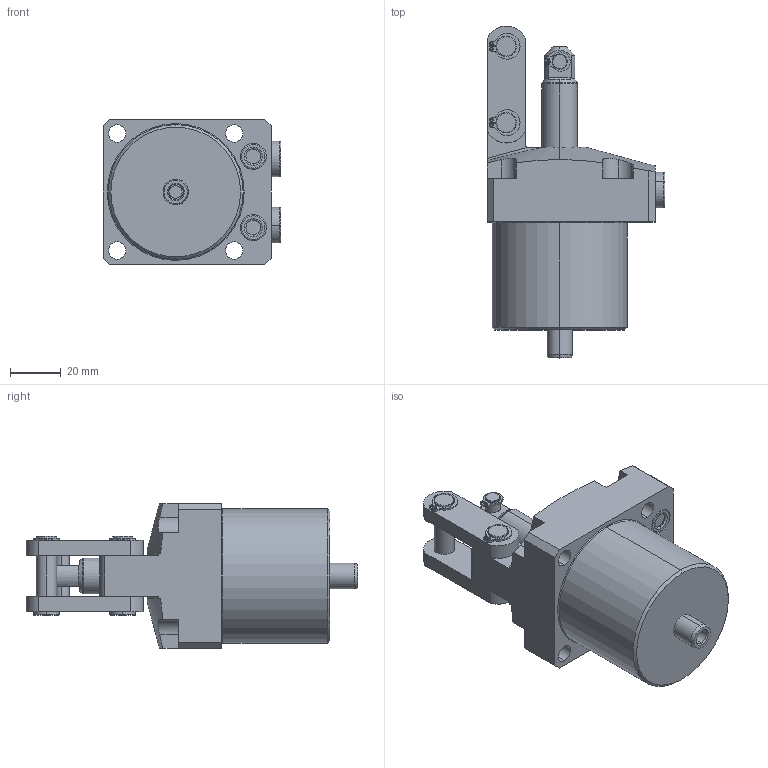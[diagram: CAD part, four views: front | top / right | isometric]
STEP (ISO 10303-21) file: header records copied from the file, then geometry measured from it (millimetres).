
FILE_DESCRIPTION(/* description */ (''),/* implementation_level */ '2;1');
FILE_NAME(/* name */ 'TPC06-FD.stp',/* time_stamp */ '2025-01-05T10:16:04+08:00',/* author */ (''),/* organization */ (''),/* preprocessor_version */ 'ST-DEVELOPER v16.7',/* originating_system */ 'SIEMENS PLM Software NX 12.0',/* authorisation */ '');
FILE_SCHEMA (('AUTOMOTIVE_DESIGN { 1 0 10303 214 3 1 1 1 }'));
Length unit declared in the file: millimetre
Products named in the file (5): TPC06-FD-04; TPC06-FD-03; TPC06-FD-02; TPC06-FD-01; TPC06-FD_stp
Assembly tree (5 placements, depth 2):
  TPC06-FD_stp
    TPC06-FD-01
    TPC06-FD-02
    TPC06-FD-03
    TPC06-FD-04  x2
Bounding box: 69.8 x 130.5 x 57 mm (x, y, z)
Volume: 202828.2 mm3; surface area: 37947.7 mm2
Topology: 5 solids, 7 shells, 297 faces, 699 edges, 444 vertices
Faces by surface type: cylinder 124, plane 114, torus 34, cone 25
Entity records: 8282 total; most frequent: CARTESIAN_POINT 1541, DIRECTION 1493, ORIENTED_EDGE 1306, EDGE_CURVE 653, AXIS2_PLACEMENT_3D 597, VERTEX_POINT 416, EDGE_LOOP 323, CIRCLE 316
